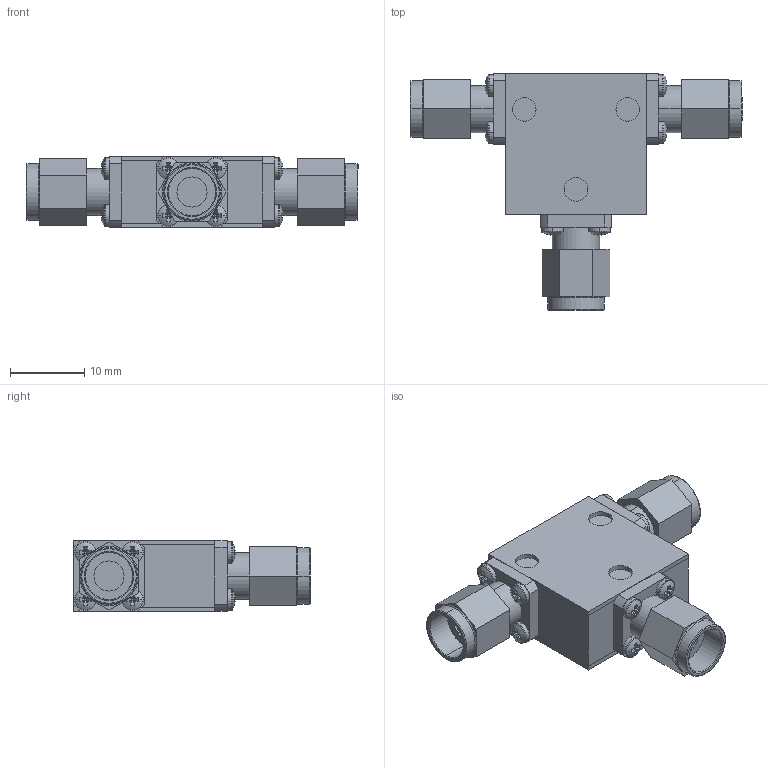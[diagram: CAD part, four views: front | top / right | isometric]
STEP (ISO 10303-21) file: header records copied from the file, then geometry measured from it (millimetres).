
FILE_DESCRIPTION (( 'STEP AP214' ), '1' );
FILE_NAME ('Package 10 Circ MMM.step', '2021-12-01T20:56:48', ( '' ), ( '' ), 'SwSTEP 2.0', 'SolidWorks 2016', '' );
FILE_SCHEMA (( 'AUTOMOTIVE_DESIGN' ));
Length unit declared in the file: inch
Products named in the file (5): Package Size 10; Delta SMA-Male 0.375 flagne; Package 10 Circ MMM; Package 10; pan cross head_ai_CR-PHMS 0.06-80x0.125x0.125-N
Assembly tree (17 placements, depth 2):
  Package 10 Circ MMM
    Package Size 10
    Package 10
    pan cross head_ai_CR-PHMS 0.06-80x0.125x0.125-N  x12
    Delta SMA-Male 0.375 flagne  x3
Bounding box: 44.81 x 31.93 x 9.65 mm (x, y, z)
Volume: 4885.1 mm3; surface area: 5793.6 mm2
Topology: 17 solids, 17 shells, 445 faces, 1014 edges, 624 vertices
Faces by surface type: plane 259, cylinder 120, torus 42, sphere 24
Entity records: 3248 total; most frequent: DIRECTION 584, CARTESIAN_POINT 504, ORIENTED_EDGE 472, EDGE_CURVE 236, AXIS2_PLACEMENT_3D 230, VERTEX_POINT 150, VECTOR 124, EDGE_LOOP 124
